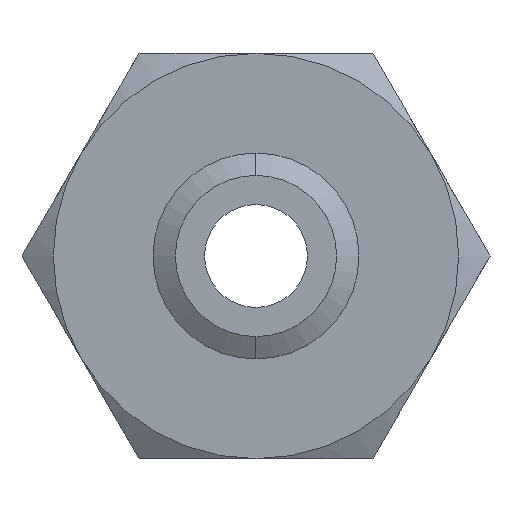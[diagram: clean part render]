
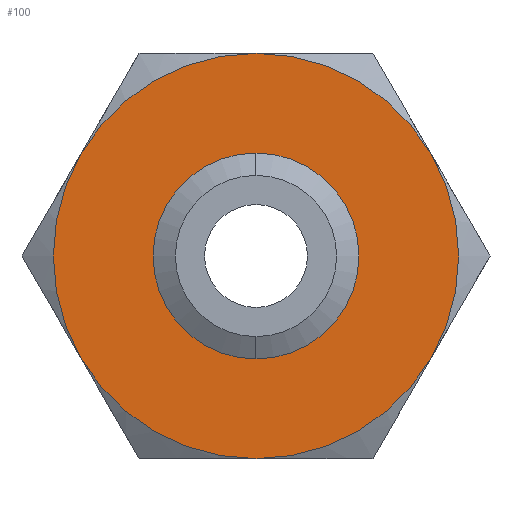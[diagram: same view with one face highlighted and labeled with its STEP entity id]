
A CAD part, front view. The second image highlights one B-rep face of the part: STEP entity #100.
In plain terms, the highlighted planar face has unit normal (0, -1, 0).
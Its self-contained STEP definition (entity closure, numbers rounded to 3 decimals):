
#82 = VERTEX_POINT ( 'NONE', #841 ) ;
#83 = VERTEX_POINT ( 'NONE', #840 ) ;
#84 = EDGE_CURVE ( 'NONE', #82, #83, #838, .T. ) ;
#85 = VERTEX_POINT ( 'NONE', #839 ) ;
#87 = ORIENTED_EDGE ( 'NONE', *, *, #84, .F. ) ;
#91 = EDGE_CURVE ( 'NONE', #94, #95, #827, .T. ) ;
#92 = ORIENTED_EDGE ( 'NONE', *, *, #93, .F. ) ;
#93 = EDGE_CURVE ( 'NONE', #85, #82, #822, .T. ) ;
#94 = VERTEX_POINT ( 'NONE', #877 ) ;
#95 = VERTEX_POINT ( 'NONE', #876 ) ;
#96 = EDGE_CURVE ( 'NONE', #95, #85, #875, .T. ) ;
#97 = ORIENTED_EDGE ( 'NONE', *, *, #96, .F. ) ;
#99 = EDGE_LOOP ( 'NONE', ( #87, #92, #97, #101, #265, #206 ) ) ;
#100 = ADVANCED_FACE ( 'NONE', ( #866, #865 ), #864, .F. ) ;
#101 = ORIENTED_EDGE ( 'NONE', *, *, #91, .F. ) ;
#136 = EDGE_LOOP ( 'NONE', ( #216, #158 ) ) ;
#158 = ORIENTED_EDGE ( 'NONE', *, *, #191, .F. ) ;
#191 = EDGE_CURVE ( 'NONE', #399, #398, #977, .T. ) ;
#202 = EDGE_CURVE ( 'NONE', #217, #94, #1014, .T. ) ;
#206 = ORIENTED_EDGE ( 'NONE', *, *, #210, .F. ) ;
#210 = EDGE_CURVE ( 'NONE', #83, #217, #1009, .T. ) ;
#216 = ORIENTED_EDGE ( 'NONE', *, *, #397, .F. ) ;
#217 = VERTEX_POINT ( 'NONE', #1062 ) ;
#265 = ORIENTED_EDGE ( 'NONE', *, *, #202, .F. ) ;
#397 = EDGE_CURVE ( 'NONE', #398, #399, #1394, .T. ) ;
#398 = VERTEX_POINT ( 'NONE', #1384 ) ;
#399 = VERTEX_POINT ( 'NONE', #1383 ) ;
#818 = DIRECTION ( 'NONE',  ( 0., 0., 1. ) ) ;
#819 = DIRECTION ( 'NONE',  ( 0., 1., 0. ) ) ;
#820 = CARTESIAN_POINT ( 'NONE',  ( 0., 0., 0. ) ) ;
#821 = AXIS2_PLACEMENT_3D ( 'NONE', #820, #819, #818 ) ;
#822 = CIRCLE ( 'NONE', #821, 25. ) ;
#823 = DIRECTION ( 'NONE',  ( 0., 0., 1. ) ) ;
#824 = DIRECTION ( 'NONE',  ( 0., 1., 0. ) ) ;
#825 = CARTESIAN_POINT ( 'NONE',  ( 0., 0., 0. ) ) ;
#826 = AXIS2_PLACEMENT_3D ( 'NONE', #825, #824, #823 ) ;
#827 = CIRCLE ( 'NONE', #826, 25. ) ;
#834 = DIRECTION ( 'NONE',  ( 0., 0., 1. ) ) ;
#835 = DIRECTION ( 'NONE',  ( 0., 1., 0. ) ) ;
#836 = CARTESIAN_POINT ( 'NONE',  ( 0., 0., 0. ) ) ;
#837 = AXIS2_PLACEMENT_3D ( 'NONE', #836, #835, #834 ) ;
#838 = CIRCLE ( 'NONE', #837, 25. ) ;
#839 = CARTESIAN_POINT ( 'NONE',  ( -21.651, 0., 12.5 ) ) ;
#840 = CARTESIAN_POINT ( 'NONE',  ( 21.651, 0., 12.5 ) ) ;
#841 = CARTESIAN_POINT ( 'NONE',  ( 0., 0., 25. ) ) ;
#860 = DIRECTION ( 'NONE',  ( 0., 0., 1. ) ) ;
#861 = DIRECTION ( 'NONE',  ( 0., 1., 0. ) ) ;
#862 = CARTESIAN_POINT ( 'NONE',  ( 14.434, 0., -25. ) ) ;
#863 = AXIS2_PLACEMENT_3D ( 'NONE', #862, #861, #860 ) ;
#864 = PLANE ( 'NONE',  #863 ) ;
#865 = FACE_BOUND ( 'NONE', #136, .T. ) ;
#866 = FACE_OUTER_BOUND ( 'NONE', #99, .T. ) ;
#871 = DIRECTION ( 'NONE',  ( 0., 0., 1. ) ) ;
#872 = DIRECTION ( 'NONE',  ( 0., 1., 0. ) ) ;
#873 = CARTESIAN_POINT ( 'NONE',  ( 0., 0., 0. ) ) ;
#874 = AXIS2_PLACEMENT_3D ( 'NONE', #873, #872, #871 ) ;
#875 = CIRCLE ( 'NONE', #874, 25. ) ;
#876 = CARTESIAN_POINT ( 'NONE',  ( -21.651, 0., -12.5 ) ) ;
#877 = CARTESIAN_POINT ( 'NONE',  ( 0., 0., -25. ) ) ;
#973 = DIRECTION ( 'NONE',  ( 0., 0., -1. ) ) ;
#974 = DIRECTION ( 'NONE',  ( 0., -1., 0. ) ) ;
#975 = CARTESIAN_POINT ( 'NONE',  ( 0., 0., 0. ) ) ;
#976 = AXIS2_PLACEMENT_3D ( 'NONE', #975, #974, #973 ) ;
#977 = CIRCLE ( 'NONE', #976, 9.946 ) ;
#1005 = DIRECTION ( 'NONE',  ( 0., 0., 1. ) ) ;
#1006 = DIRECTION ( 'NONE',  ( 0., 1., 0. ) ) ;
#1007 = CARTESIAN_POINT ( 'NONE',  ( 0., 0., 0. ) ) ;
#1008 = AXIS2_PLACEMENT_3D ( 'NONE', #1007, #1006, #1005 ) ;
#1009 = CIRCLE ( 'NONE', #1008, 25. ) ;
#1010 = DIRECTION ( 'NONE',  ( 0., 0., 1. ) ) ;
#1011 = DIRECTION ( 'NONE',  ( 0., 1., 0. ) ) ;
#1012 = CARTESIAN_POINT ( 'NONE',  ( 0., 0., 0. ) ) ;
#1013 = AXIS2_PLACEMENT_3D ( 'NONE', #1012, #1011, #1010 ) ;
#1014 = CIRCLE ( 'NONE', #1013, 25. ) ;
#1062 = CARTESIAN_POINT ( 'NONE',  ( 21.651, 0., -12.5 ) ) ;
#1383 = CARTESIAN_POINT ( 'NONE',  ( 0., 0., 9.946 ) ) ;
#1384 = CARTESIAN_POINT ( 'NONE',  ( 0., 0., -9.946 ) ) ;
#1385 = DIRECTION ( 'NONE',  ( 0., 0., -1. ) ) ;
#1386 = DIRECTION ( 'NONE',  ( 0., -1., 0. ) ) ;
#1387 = CARTESIAN_POINT ( 'NONE',  ( 0., 0., 0. ) ) ;
#1388 = AXIS2_PLACEMENT_3D ( 'NONE', #1387, #1386, #1385 ) ;
#1394 = CIRCLE ( 'NONE', #1388, 9.946 ) ;
